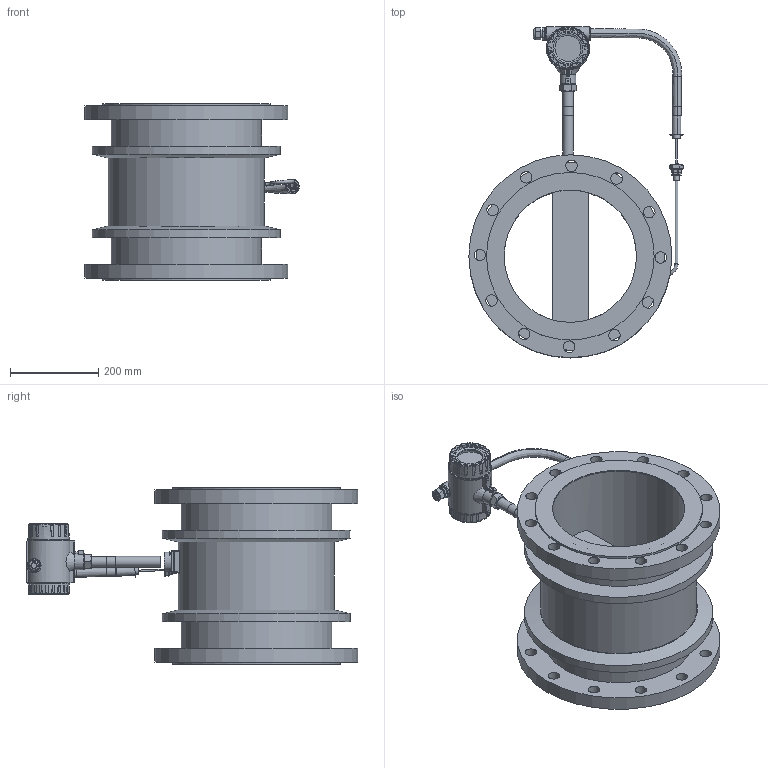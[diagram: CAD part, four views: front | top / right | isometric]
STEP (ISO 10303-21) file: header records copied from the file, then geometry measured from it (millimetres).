
FILE_DESCRIPTION(/* description */ ('STEP AP214'),/* implementation_level */ '2;1');
FILE_NAME(/* name */ 'DN300 vortex.step',/* time_stamp */ '2025-09-10T16:32:25+03:00',/* author */ (''),/* organization */ (''),/* preprocessor_version */ 'ST-DEVELOPER v20.1',/* originating_system */ 'Autodesk Translation Framework v14.10.0.0',/* authorisation */ '');
FILE_SCHEMA (('AUTOMOTIVE_DESIGN { 1 0 10303 214 3 1 1 }'));
Length unit declared in the file: millimetre
Products named in the file (1): DN100法兰连接装配体
Bounding box: 485.6 x 752.08 x 400.01 mm (x, y, z)
Volume: 17826778 mm3; surface area: 1972769.8 mm2
Topology: 24 solids, 25 shells, 922 faces, 2254 edges, 1428 vertices
Faces by surface type: plane 511, cylinder 263, torus 59, cone 51, bspline 34, sphere 4
Full cylindrical faces by diameter (mm): 3.2 x1, 3.3 x1, 3.65 x2, 4.2 x10, 6 x12, 8 x4, 8.7 x2, 9 x1, 10 x1, 12 x1, 12.4 x1, 13 x1, 14 x1, 16 x2, 17.727 x4, 18 x5, 19 x7, 19.2 x2, 20 x1, 20.6 x1, 20.655 x1, 22.6 x1, 24 x2, 24.2 x1, 26 x24, 28 x2, 31.9 x2, 38 x1, 44 x1, 59 x1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
Entity records: 32066 total; most frequent: CARTESIAN_POINT 9775, DIRECTION 4838, ORIENTED_EDGE 4494, EDGE_CURVE 2247, AXIS2_PLACEMENT_3D 1850, VERTEX_POINT 1428, LINE 1138, VECTOR 1138
